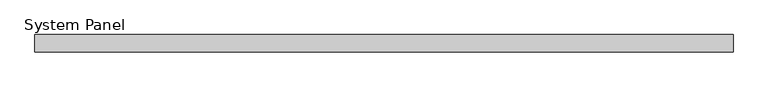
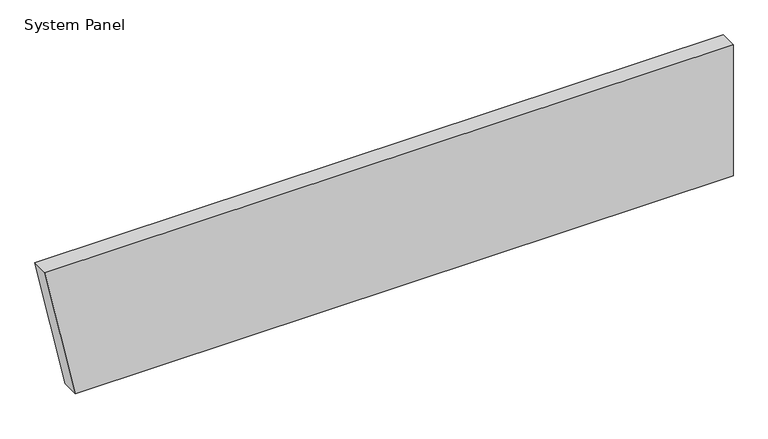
"""IFC4 building model written with IfcOpenShell, lengths in millimetres: plate geometry, System Panel : Equitilt 150mm Horizontal - Plain RHEA - MW."""

from ifc_helpers import new_model, si_unit, frame, origin, place, context, project, spatial, polyline, outline, extrude, source, transform, mapped, element, save


def system_panel_ba8f056f(model_context):
    return source(origin(), model_context, "Body", "SweptSolid", [
        extrude(outline(polyline([(0.0, -2720.4358309), (0.0, 2981.3074928), (1200.0, 2981.3074928), (1200.0, -2981.3074928), (0.0, -2720.4358309)])), frame((0.0, -150.0, 0.0), z_axis=(0.0, 1.0, 0.0), x_axis=(0.0, 0.0, 1.0)), (0.0, 0.0, 1.0), 150.0),
    ])


if __name__ == "__main__":
    model = new_model("IFC4")
    model_context = context("Model", 3, world=origin())
    ifc_project = project(units=[si_unit("LENGTHUNIT", "METRE", prefix="MILLI")], contexts=[model_context])
    site = spatial("IfcSite", under=ifc_project)
    building = spatial("IfcBuilding", under=site)
    placement = place(None, origin())
    system_panel_shape = system_panel_ba8f056f(model_context)
    element("IfcPlate", 1, ObjectType="System Panel : Equitilt 150mm Horizontal - Plain RHEA - MW", at=placement, inside=building, context=model_context, shape_type="MappedRepresentation", body=[
        mapped(system_panel_shape, transform((0.0, 0.0, 0.0), x_axis=(1.0, 0.0, 0.0), y_axis=(0.0, 1.0, 0.0), z_axis=(0.0, 0.0, 1.0))),
    ])
    save(model, "model.ifc")
